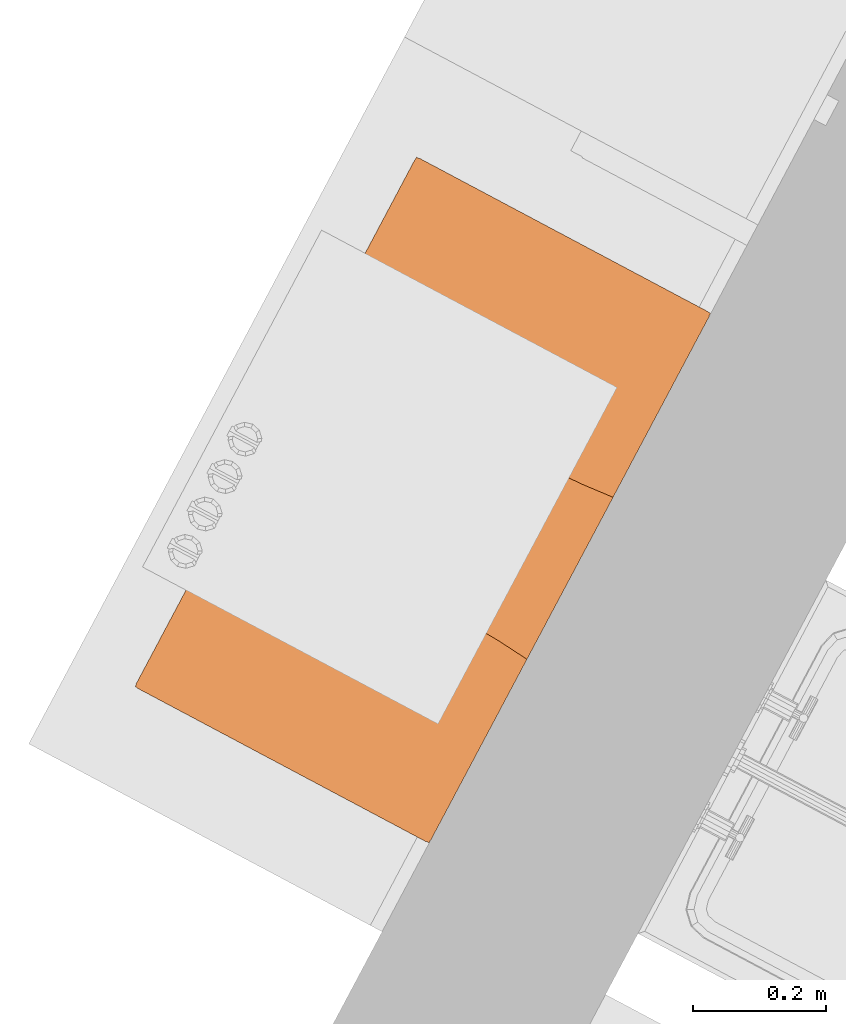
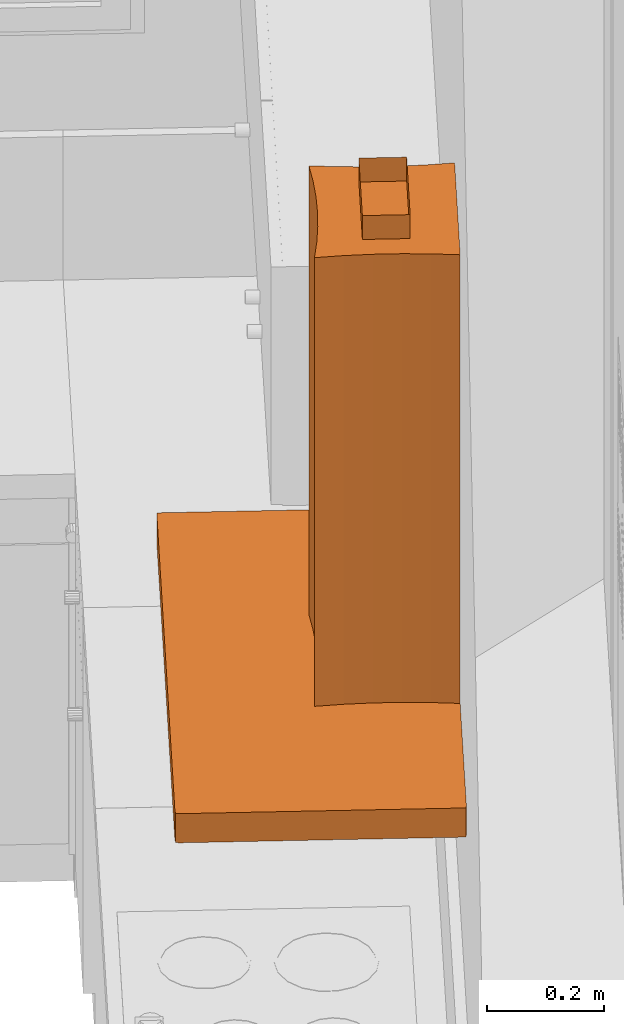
# One storey, part 24 of 27: 1 proxy.
"""IFC2X3 building model written with IfcOpenShell, lengths in metres."""

from ifc_helpers import new_model, entity, si_unit, converted_unit, derived_unit, money_unit, direction, frame, origin_with_axes, place, context, subcontext, project, spatial, open_shell, faceted_brep, surface_model, type_object, element, save


model = new_model("IFC2X3")

# Units and contexts
model_context = context("Model", 3, precision=1e-05, world=origin_with_axes(), true_north=direction((0.0, 1.0)))
body_context = subcontext(model_context, "Body", "Model", "MODEL_VIEW")
ifc_project = project(units=[si_unit("LENGTHUNIT", "METRE"), si_unit("AREAUNIT", "SQUARE_METRE"), si_unit("VOLUMEUNIT", "CUBIC_METRE"), converted_unit("PLANEANGLEUNIT", "DEGREE", entity("IfcPlaneAngleMeasure", 0.0174532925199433), si_unit("PLANEANGLEUNIT", "RADIAN"), dimensions=[0, 0, 0, 0, 0, 0, 0]), money_unit("CHF"), converted_unit("TIMEUNIT", "Year", entity("IfcTimeMeasure", 31557600.0), si_unit("TIMEUNIT", "SECOND"), dimensions=[0, 0, 1, 0, 0, 0, 0]), si_unit("MASSUNIT", "GRAM", prefix="KILO"), si_unit("THERMODYNAMICTEMPERATUREUNIT", "DEGREE_CELSIUS"), si_unit("LUMINOUSINTENSITYUNIT", "LUMEN"), si_unit("ENERGYUNIT", "JOULE", prefix="MEGA"), derived_unit("THERMALCONDUCTANCEUNIT", [(si_unit("POWERUNIT", "WATT"), 1), (si_unit("LENGTHUNIT", "METRE"), -1), (si_unit("THERMODYNAMICTEMPERATUREUNIT", "KELVIN"), -1)]), derived_unit("SPECIFICHEATCAPACITYUNIT", [(si_unit("ENERGYUNIT", "JOULE"), 1), (si_unit("MASSUNIT", "GRAM", prefix="KILO"), -1), (si_unit("THERMODYNAMICTEMPERATUREUNIT", "KELVIN"), -1)]), derived_unit("MASSDENSITYUNIT", [(si_unit("MASSUNIT", "GRAM", prefix="KILO"), 1), (si_unit("VOLUMEUNIT", "CUBIC_METRE"), -1)])], contexts=[model_context])

# Site, building, storey
site_placement = place(None, frame((0.0, 0.0, 0.0), z_axis=(0.0, 0.0, 1.0), x_axis=(-0.4694715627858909, -0.8829475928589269, 0.0)))
site = spatial("IfcSite", under=ifc_project, at=site_placement, Name="Site", CompositionType="ELEMENT")
building_placement = place(site_placement, origin_with_axes())
building = spatial("IfcBuilding", under=site, at=building_placement, Name="Bâtiment", CompositionType="ELEMENT")
storey_placement = place(building_placement, origin_with_axes())
storey = spatial("IfcBuildingStorey", under=building, at=storey_placement, Name="RDC", CompositionType="ELEMENT", Elevation=0.0)

# Proxy
building_element_proxy_type = type_object("IfcBuildingElementProxyType", Name="Hotte 27", PredefinedType="NOTDEFINED")
proxy_placement = place(storey_placement, frame((135.7795710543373, -829.53459910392, 1.56), z_axis=(0.0, 0.0, 1.0), x_axis=(1.0, 0.0, 0.0)))
element("IfcBuildingElementProxy", 1, at=proxy_placement, inside=storey, type_object=building_element_proxy_type, Name="Obj.-483", context=body_context, shape_type="SurfaceModel", body=[
    surface_model("IfcShellBasedSurfaceModel", [(0.536, 0.3340000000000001, 1.0), (0.536, 0.416, 1.0), (0.536, 0.416, 1.05), (0.536, 0.3340000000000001, 1.05), (0.364, 0.416, 1.0), (0.364, 0.416, 1.05), (0.364, 0.3340000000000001, 1.0), (0.364, 0.3340000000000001, 1.05)], [open_shell([[[0, 1, 2, 3]], [[1, 4, 5, 2]], [[6, 0, 3, 7]], [[4, 6, 7, 5]]])]),
    faceted_brep([(0.005, 0.0, 0.06), (0.895, 0.0, 0.06), (0.895, 0.0, 0.061), (0.005, 0.0, 0.061), (0.005, 0.0005, 0.06), (0.0005, 0.0005, 0.06), (0.0005, 0.005, 0.06), (0.0, 0.005, 0.06), (0.0, 0.495, 0.06), (0.0005, 0.495, 0.06), (0.0005, 0.4995, 0.06), (0.005, 0.4995, 0.06), (0.005, 0.5, 0.06), (0.895, 0.5, 0.06), (0.895, 0.4995, 0.06), (0.8995, 0.4995, 0.06), (0.8995, 0.495, 0.06), (0.9, 0.495, 0.06), (0.9, 0.005, 0.06), (0.8995, 0.005, 0.06), (0.8995, 0.0005, 0.06), (0.895, 0.0005, 0.06), (0.895, 0.0005, 0.061), (0.8995, 0.0005, 0.061), (0.8995, 0.005, 0.061), (0.9, 0.005, 0.061), (0.9, 0.495, 0.061), (0.8995, 0.495, 0.061), (0.8995, 0.4995, 0.061), (0.895, 0.4995, 0.061), (0.895, 0.5, 0.061), (0.005, 0.5, 0.061), (0.005, 0.4995, 0.061), (0.0005, 0.4995, 0.061), (0.0005, 0.495, 0.061), (0.0, 0.495, 0.061), (0.0, 0.005, 0.061), (0.0005, 0.005, 0.061), (0.0005, 0.0005, 0.061), (0.005, 0.0005, 0.061)], [[[0, 1, 2, 3]], [[0, 4, 5, 6, 7, 8, 9, 10, 11, 12, 13, 14, 15, 16, 17, 18, 19, 20, 21, 1]], [[1, 21, 22, 2]], [[3, 2, 22, 23, 24, 25, 26, 27, 28, 29, 30, 31, 32, 33, 34, 35, 36, 37, 38, 39]], [[4, 0, 3, 39]], [[5, 4, 39, 38]], [[6, 5, 38, 37]], [[7, 6, 37, 36]], [[8, 7, 36, 35]], [[9, 8, 35, 34]], [[10, 9, 34, 33]], [[11, 10, 33, 32]], [[12, 11, 32, 31]], [[13, 12, 31, 30]], [[14, 13, 30, 29]], [[15, 14, 29, 28]], [[16, 15, 28, 27]], [[17, 16, 27, 26]], [[18, 17, 26, 25]], [[19, 18, 25, 24]], [[20, 19, 24, 23]], [[21, 20, 23, 22]]]),
    faceted_brep([(0.005, 0.0, 0.0), (0.895, 0.0, 0.0), (0.895, 0.0, 0.06), (0.005, 0.0, 0.06), (0.005, 0.0005, 0.0), (0.0005, 0.0005, 0.0), (0.0005, 0.005, 0.0), (0.0, 0.005, 0.0), (0.0, 0.495, 0.0), (0.0005, 0.495, 0.0), (0.0005, 0.4995, 0.0), (0.005, 0.4995, 0.0), (0.005, 0.5, 0.0), (0.895, 0.5, 0.0), (0.895, 0.4995, 0.0), (0.8995, 0.4995, 0.0), (0.8995, 0.495, 0.0), (0.9, 0.495, 0.0), (0.9, 0.005, 0.0), (0.8995, 0.005, 0.0), (0.8995, 0.0005, 0.0), (0.895, 0.0005, 0.0), (0.006288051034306, 0.0007236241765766, 0.0), (0.8937119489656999, 0.0007236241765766, 0.0), (0.8937119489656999, 0.001222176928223, 0.0), (0.8981989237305, 0.001222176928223, 0.0), (0.8981989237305, 0.005709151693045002, 0.0), (0.8986974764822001, 0.005709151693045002, 0.0), (0.8986974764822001, 0.494290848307, 0.0), (0.8981989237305, 0.494290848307, 0.0), (0.8981989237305, 0.4987778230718, 0.0), (0.8937119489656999, 0.4987778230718, 0.0), (0.8937119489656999, 0.4992763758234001, 0.0), (0.006288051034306, 0.4992763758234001, 0.0), (0.006288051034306, 0.4987778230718, 0.0), (0.001801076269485, 0.4987778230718, 0.0), (0.001801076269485, 0.494290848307, 0.0), (0.001302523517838, 0.494290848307, 0.0), (0.001302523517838, 0.005709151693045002, 0.0), (0.001801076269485, 0.005709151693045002, 0.0), (0.001801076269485, 0.001222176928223, 0.0), (0.006288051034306, 0.001222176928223, 0.0), (0.895, 0.0005, 0.06), (0.8995, 0.0005, 0.06), (0.8995, 0.005, 0.06), (0.9, 0.005, 0.06), (0.9, 0.495, 0.06), (0.8995, 0.495, 0.06), (0.8995, 0.4995, 0.06), (0.895, 0.4995, 0.06), (0.895, 0.5, 0.06), (0.005, 0.5, 0.06), (0.005, 0.4995, 0.06), (0.0005, 0.4995, 0.06), (0.0005, 0.495, 0.06), (0.0, 0.495, 0.06), (0.0, 0.005, 0.06), (0.0005, 0.005, 0.06), (0.0005, 0.0005, 0.06), (0.005, 0.0005, 0.06), (0.006288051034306, 0.0007236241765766, 0.06), (0.006288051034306, 0.001222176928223, 0.06), (0.001801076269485, 0.001222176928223, 0.06), (0.001801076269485, 0.005709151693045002, 0.06), (0.001302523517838, 0.005709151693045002, 0.06), (0.001302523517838, 0.494290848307, 0.06), (0.001801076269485, 0.494290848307, 0.06), (0.001801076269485, 0.4987778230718, 0.06), (0.006288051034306, 0.4987778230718, 0.06), (0.006288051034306, 0.4992763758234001, 0.06), (0.8937119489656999, 0.4992763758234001, 0.06), (0.8937119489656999, 0.4987778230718, 0.06), (0.8981989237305, 0.4987778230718, 0.06), (0.8981989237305, 0.494290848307, 0.06), (0.8986974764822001, 0.494290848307, 0.06), (0.8986974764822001, 0.005709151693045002, 0.06), (0.8981989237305, 0.005709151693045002, 0.06), (0.8981989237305, 0.001222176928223, 0.06), (0.8937119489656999, 0.001222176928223, 0.06), (0.8937119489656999, 0.0007236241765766, 0.06)], [[[0, 1, 2, 3]], [[0, 4, 5, 6, 7, 8, 9, 10, 11, 12, 13, 14, 15, 16, 17, 18, 19, 20, 21, 1], [22, 23, 24, 25, 26, 27, 28, 29, 30, 31, 32, 33, 34, 35, 36, 37, 38, 39, 40, 41]], [[1, 21, 42, 2]], [[3, 2, 42, 43, 44, 45, 46, 47, 48, 49, 50, 51, 52, 53, 54, 55, 56, 57, 58, 59], [60, 61, 62, 63, 64, 65, 66, 67, 68, 69, 70, 71, 72, 73, 74, 75, 76, 77, 78, 79]], [[4, 0, 3, 59]], [[5, 4, 59, 58]], [[6, 5, 58, 57]], [[7, 6, 57, 56]], [[8, 7, 56, 55]], [[9, 8, 55, 54]], [[10, 9, 54, 53]], [[11, 10, 53, 52]], [[12, 11, 52, 51]], [[13, 12, 51, 50]], [[14, 13, 50, 49]], [[15, 14, 49, 48]], [[16, 15, 48, 47]], [[17, 16, 47, 46]], [[18, 17, 46, 45]], [[19, 18, 45, 44]], [[20, 19, 44, 43]], [[21, 20, 43, 42]], [[23, 22, 60, 79]], [[24, 23, 79, 78]], [[25, 24, 78, 77]], [[26, 25, 77, 76]], [[27, 26, 76, 75]], [[28, 27, 75, 74]], [[29, 28, 74, 73]], [[30, 29, 73, 72]], [[31, 30, 72, 71]], [[32, 31, 71, 70]], [[33, 32, 70, 69]], [[34, 33, 69, 68]], [[35, 34, 68, 67]], [[36, 35, 67, 66]], [[37, 36, 66, 65]], [[38, 37, 65, 64]], [[39, 38, 64, 63]], [[40, 39, 63, 62]], [[41, 40, 62, 61]], [[22, 41, 61, 60]]]),
    surface_model("IfcShellBasedSurfaceModel", [(0.3125100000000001, 0.25001, 0.061), (0.3125000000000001, 0.25, 0.061), (0.3125000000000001, 0.25, 1.0), (0.3125100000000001, 0.25001, 1.0), (0.3169783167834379, 0.299899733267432, 0.061), (0.3192197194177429, 0.349949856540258, 0.061), (0.3192197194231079, 0.4000501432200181, 0.061), (0.3169783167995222, 0.4501002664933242, 0.061), (0.3125000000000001, 0.5, 0.061), (0.3125100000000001, 0.5001, 0.061), (0.5875000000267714, 0.5000000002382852, 0.061), (0.5830216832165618, 0.4501002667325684, 0.061), (0.5807802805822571, 0.4000501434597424, 0.061), (0.580780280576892, 0.3499498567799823, 0.061), (0.5830216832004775, 0.2998997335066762, 0.061), (0.5874999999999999, 0.25, 0.061), (0.5418459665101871, 0.255551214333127, 0.061), (0.4959768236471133, 0.2588871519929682, 0.061), (0.4499999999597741, 0.2599999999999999, 0.061), (0.4040231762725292, 0.258887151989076, 0.061), (0.3581540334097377, 0.2555512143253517, 0.061), (0.3581540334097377, 0.2555512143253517, 1.0), (0.4040231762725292, 0.258887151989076, 1.0), (0.4499999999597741, 0.2599999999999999, 1.0), (0.4959768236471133, 0.2588871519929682, 1.0), (0.5418459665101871, 0.255551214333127, 1.0), (0.5874999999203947, 0.2500000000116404, 1.0), (0.5830216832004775, 0.2998997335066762, 1.0), (0.580780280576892, 0.3499498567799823, 1.0), (0.5807802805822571, 0.4000501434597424, 1.0), (0.5830216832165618, 0.4501002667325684, 1.0), (0.5875000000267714, 0.5000000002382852, 1.0), (0.3125100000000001, 0.5001, 1.0), (0.3125000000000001, 0.5, 1.0), (0.3169783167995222, 0.4501002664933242, 1.0), (0.3192197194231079, 0.4000501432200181, 1.0), (0.3192197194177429, 0.349949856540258, 1.0), (0.3169783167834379, 0.299899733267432, 1.0), (0.3124999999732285, 0.2499999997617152, 1.0), (0.3124999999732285, 0.2499999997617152, 0.061), (0.5874999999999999, 0.25, 1.0), (0.5875099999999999, 0.25001, 0.061), (0.5875099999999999, 0.25001, 1.0), (0.5874999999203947, 0.2500000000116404, 0.061)], [open_shell([[[0, 1, 2, 3]], [[4, 5, 6, 7, 8, 9, 10, 11, 12, 13, 14, 15, 16, 17, 18, 19, 20, 1]], [[1, 20, 21, 2]], [[21, 22, 23, 24, 25, 26, 27, 28, 29, 30, 31, 32, 33, 34, 35, 36, 37, 38]], [[39, 0, 3, 38]], [[4, 39, 38, 37]], [[5, 4, 37, 36]], [[6, 5, 36, 35]], [[7, 6, 35, 34]], [[8, 7, 34, 33]], [[9, 8, 33, 32]], [[10, 9, 32, 31]], [[11, 10, 31, 30]], [[12, 11, 30, 29]], [[13, 12, 29, 28]], [[14, 13, 28, 27]], [[15, 14, 27, 40]], [[41, 15, 40, 42]], [[43, 41, 42, 26]], [[16, 43, 26, 25]], [[17, 16, 25, 24]], [[18, 17, 24, 23]], [[19, 18, 23, 22]], [[20, 19, 22, 21]]])]),
    faceted_brep([(0.7596, 0.06191446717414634, 0.0), (0.7623, 0.05627631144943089, -0.004000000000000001), (0.7613061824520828, 0.05627631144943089, -0.004000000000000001), (0.7594592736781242, 0.06191446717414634, 0.0), (0.7596, 0.02918382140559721, 0.0), (0.7623, 0.03409191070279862, -0.003999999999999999), (0.7580578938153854, 0.03580746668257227, -0.004000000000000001), (0.7543640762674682, 0.04291622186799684, -0.004000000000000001), (0.755646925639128, 0.051, -0.004000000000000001), (0.7509703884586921, 0.054, 0.0), (0.7490461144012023, 0.04187433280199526, 0.0), (0.754586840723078, 0.03121120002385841, 0.0)], [[[0, 1, 2, 3]], [[1, 0, 4, 5]], [[1, 5, 6, 7, 8, 2]], [[2, 8, 9, 3]], [[4, 0, 3, 9, 10, 11]], [[5, 4, 11, 6]], [[7, 6, 11, 10]], [[8, 7, 10, 9]]]),
    faceted_brep([(0.7677, 0.05627631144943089, -0.004000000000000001), (0.7704, 0.06191446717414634, 0.0), (0.7705407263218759, 0.06191446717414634, 0.0), (0.7686938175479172, 0.05627631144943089, -0.004000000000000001), (0.7704, 0.02918382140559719, 0.0), (0.7677, 0.03409191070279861, -0.003999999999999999), (0.775413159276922, 0.0312112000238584, 0.0), (0.7809538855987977, 0.04187433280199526, 0.0), (0.7790296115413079, 0.05399999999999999, 0.0), (0.774353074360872, 0.051, -0.004000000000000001), (0.7756359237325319, 0.04291622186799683, -0.004000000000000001), (0.7719421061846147, 0.03580746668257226, -0.004000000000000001)], [[[0, 1, 2, 3]], [[4, 1, 0, 5]], [[1, 4, 6, 7, 8, 2]], [[9, 3, 2, 8]], [[5, 0, 3, 9, 10, 11]], [[4, 5, 11, 6]], [[11, 10, 7, 6]], [[10, 9, 8, 7]]]),
    faceted_brep([(0.7704, 0.02625, 0.0), (0.7704, 0.06045, 0.0), (0.7596, 0.06045, 0.0), (0.7596, 0.02625, 0.0), (0.7677, 0.02625, -0.003999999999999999), (0.7677, 0.06045, -0.004000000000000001), (0.765, 0.06045, -0.006000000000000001), (0.7623, 0.06045, -0.004000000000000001), (0.7623, 0.02625, -0.003999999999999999), (0.765, 0.02625, -0.005999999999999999)], [[[0, 1, 2, 3]], [[4, 5, 1, 0]], [[1, 5, 6, 7, 2]], [[3, 2, 7, 8]], [[0, 3, 8, 9, 4]], [[9, 6, 5, 4]], [[8, 7, 6, 9]]]),
    faceted_brep([(0.7987500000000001, 0.03525, 0.0), (0.7987500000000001, 0.03525, -0.0025), (0.7993431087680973, 0.03365900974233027, -0.0025), (0.7993431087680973, 0.03365900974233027, 0.0), (0.7987500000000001, 0.05475, 0.0), (0.7987500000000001, 0.05475, -0.0025), (0.7993431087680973, 0.05634099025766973, -0.0025), (0.8007750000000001, 0.057, -0.0025), (0.8102250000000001, 0.057, -0.0025), (0.8116568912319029, 0.05634099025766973, -0.0025), (0.8122500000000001, 0.05475, -0.0025), (0.8122500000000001, 0.03525, -0.0025), (0.8116568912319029, 0.03365900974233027, -0.0025), (0.8102250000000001, 0.033, -0.0025), (0.8007750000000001, 0.033, -0.0025), (0.8007750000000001, 0.033, 0.0), (0.8102250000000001, 0.033, 0.0), (0.8116568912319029, 0.03365900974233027, 0.0), (0.8122500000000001, 0.03525, 0.0), (0.8122500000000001, 0.05475, 0.0), (0.8116568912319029, 0.05634099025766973, 0.0), (0.8102250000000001, 0.057, 0.0), (0.8007750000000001, 0.057, 0.0), (0.7993431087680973, 0.05634099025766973, 0.0)], [[[0, 1, 2, 3]], [[4, 5, 1, 0]], [[1, 5, 6, 7, 8, 9, 10, 11, 12, 13, 14, 2]], [[3, 2, 14, 15]], [[0, 3, 15, 16, 17, 18, 19, 20, 21, 22, 23, 4]], [[23, 6, 5, 4]], [[22, 7, 6, 23]], [[21, 8, 7, 22]], [[20, 9, 8, 21]], [[19, 10, 9, 20]], [[18, 11, 10, 19]], [[17, 12, 11, 18]], [[16, 13, 12, 17]], [[15, 14, 13, 16]]]),
    faceted_brep([(0.8102250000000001, 0.05430111, -0.004449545), (0.8007750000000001, 0.05430111, -0.004449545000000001), (0.8007750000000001, 0.05474998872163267, -0.002499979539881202), (0.8102250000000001, 0.05474998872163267, -0.002499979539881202), (0.8102250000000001, 0.05174346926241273, -0.007194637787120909), (0.8007750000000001, 0.05174346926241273, -0.007194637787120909), (0.8007750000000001, 0.05119566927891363, -0.007369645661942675), (0.8007750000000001, 0.05059877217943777, -0.007294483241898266), (0.8007750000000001, 0.05018450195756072, -0.006998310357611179), (0.8007750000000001, 0.04438471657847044, -0.003733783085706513), (0.8007750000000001, 0.03683103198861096, -0.004231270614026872), (0.8007750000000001, 0.0362509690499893, -0.004292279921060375), (0.8007750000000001, 0.03572355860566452, -0.004120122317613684), (0.8007750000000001, 0.03544009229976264, -0.003777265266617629), (0.8007750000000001, 0.03525, -0.0025), (0.8102250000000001, 0.03525, -0.0025), (0.8102250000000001, 0.03544009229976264, -0.003777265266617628), (0.8102250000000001, 0.03572355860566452, -0.004120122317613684), (0.8102250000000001, 0.0362509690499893, -0.004292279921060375), (0.8102250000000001, 0.03683103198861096, -0.004231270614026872), (0.8102250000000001, 0.04438471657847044, -0.003733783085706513), (0.8102250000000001, 0.05018450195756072, -0.006998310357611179), (0.8102250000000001, 0.05059877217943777, -0.007294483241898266), (0.8102250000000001, 0.05119566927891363, -0.007369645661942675)], [[[0, 1, 2, 3]], [[4, 5, 1, 0]], [[1, 5, 6, 7, 8, 9, 10, 11, 12, 13, 14, 2]], [[3, 2, 14, 15]], [[0, 3, 15, 16, 17, 18, 19, 20, 21, 22, 23, 4]], [[23, 6, 5, 4]], [[22, 7, 6, 23]], [[21, 8, 7, 22]], [[20, 9, 8, 21]], [[19, 10, 9, 20]], [[18, 11, 10, 19]], [[17, 12, 11, 18]], [[16, 13, 12, 17]], [[15, 14, 13, 16]]]),
    faceted_brep([(0.82305, 0.03525, 0.0), (0.82305, 0.03525, -0.0025), (0.8236431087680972, 0.03365900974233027, -0.0025), (0.8236431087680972, 0.03365900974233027, 0.0), (0.82305, 0.05475, 0.0), (0.82305, 0.05475, -0.0025), (0.8236431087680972, 0.05634099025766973, -0.0025), (0.825075, 0.057, -0.0025), (0.834525, 0.057, -0.0025), (0.8359568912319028, 0.05634099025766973, -0.0025), (0.83655, 0.05475, -0.0025), (0.83655, 0.03525, -0.0025), (0.8359568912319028, 0.03365900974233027, -0.0025), (0.834525, 0.033, -0.0025), (0.825075, 0.033, -0.0025), (0.825075, 0.033, 0.0), (0.834525, 0.033, 0.0), (0.8359568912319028, 0.03365900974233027, 0.0), (0.83655, 0.03525, 0.0), (0.83655, 0.05475, 0.0), (0.8359568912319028, 0.05634099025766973, 0.0), (0.834525, 0.057, 0.0), (0.825075, 0.057, 0.0), (0.8236431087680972, 0.05634099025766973, 0.0)], [[[0, 1, 2, 3]], [[4, 5, 1, 0]], [[1, 5, 6, 7, 8, 9, 10, 11, 12, 13, 14, 2]], [[3, 2, 14, 15]], [[0, 3, 15, 16, 17, 18, 19, 20, 21, 22, 23, 4]], [[23, 6, 5, 4]], [[22, 7, 6, 23]], [[21, 8, 7, 22]], [[20, 9, 8, 21]], [[19, 10, 9, 20]], [[18, 11, 10, 19]], [[17, 12, 11, 18]], [[16, 13, 12, 17]], [[15, 14, 13, 16]]]),
    faceted_brep([(0.834525, 0.05430111, -0.004449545), (0.825075, 0.05430111, -0.004449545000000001), (0.825075, 0.05474998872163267, -0.002499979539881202), (0.834525, 0.05474998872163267, -0.002499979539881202), (0.834525, 0.05174346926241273, -0.007194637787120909), (0.825075, 0.05174346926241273, -0.007194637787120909), (0.825075, 0.05119566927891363, -0.007369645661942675), (0.825075, 0.05059877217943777, -0.007294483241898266), (0.825075, 0.05018450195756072, -0.006998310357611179), (0.825075, 0.04438471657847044, -0.003733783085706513), (0.825075, 0.03683103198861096, -0.004231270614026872), (0.825075, 0.0362509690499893, -0.004292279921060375), (0.825075, 0.03572355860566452, -0.004120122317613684), (0.825075, 0.03544009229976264, -0.003777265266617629), (0.825075, 0.03525, -0.0025), (0.834525, 0.03525, -0.0025), (0.834525, 0.03544009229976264, -0.003777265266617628), (0.834525, 0.03572355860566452, -0.004120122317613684), (0.834525, 0.0362509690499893, -0.004292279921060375), (0.834525, 0.03683103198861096, -0.004231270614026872), (0.834525, 0.04438471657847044, -0.003733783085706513), (0.834525, 0.05018450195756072, -0.006998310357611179), (0.834525, 0.05059877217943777, -0.007294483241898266), (0.834525, 0.05119566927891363, -0.007369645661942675)], [[[0, 1, 2, 3]], [[4, 5, 1, 0]], [[1, 5, 6, 7, 8, 9, 10, 11, 12, 13, 14, 2]], [[3, 2, 14, 15]], [[0, 3, 15, 16, 17, 18, 19, 20, 21, 22, 23, 4]], [[23, 6, 5, 4]], [[22, 7, 6, 23]], [[21, 8, 7, 22]], [[20, 9, 8, 21]], [[19, 10, 9, 20]], [[18, 11, 10, 19]], [[17, 12, 11, 18]], [[16, 13, 12, 17]], [[15, 14, 13, 16]]]),
    faceted_brep([(0.84735, 0.03525, 0.0), (0.84735, 0.03525, -0.0025), (0.8479431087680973, 0.03365900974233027, -0.0025), (0.8479431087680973, 0.03365900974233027, 0.0), (0.84735, 0.05475, 0.0), (0.84735, 0.05475, -0.0025), (0.8479431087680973, 0.05634099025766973, -0.0025), (0.8493750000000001, 0.057, -0.0025), (0.8588250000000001, 0.057, -0.0025), (0.8602568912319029, 0.05634099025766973, -0.0025), (0.8608500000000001, 0.05475, -0.0025), (0.8608500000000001, 0.03525, -0.0025), (0.8602568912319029, 0.03365900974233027, -0.0025), (0.8588250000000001, 0.033, -0.0025), (0.8493750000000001, 0.033, -0.0025), (0.8493750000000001, 0.033, 0.0), (0.8588250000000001, 0.033, 0.0), (0.8602568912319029, 0.03365900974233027, 0.0), (0.8608500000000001, 0.03525, 0.0), (0.8608500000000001, 0.05475, 0.0), (0.8602568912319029, 0.05634099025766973, 0.0), (0.8588250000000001, 0.057, 0.0), (0.8493750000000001, 0.057, 0.0), (0.8479431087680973, 0.05634099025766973, 0.0)], [[[0, 1, 2, 3]], [[4, 5, 1, 0]], [[1, 5, 6, 7, 8, 9, 10, 11, 12, 13, 14, 2]], [[3, 2, 14, 15]], [[0, 3, 15, 16, 17, 18, 19, 20, 21, 22, 23, 4]], [[23, 6, 5, 4]], [[22, 7, 6, 23]], [[21, 8, 7, 22]], [[20, 9, 8, 21]], [[19, 10, 9, 20]], [[18, 11, 10, 19]], [[17, 12, 11, 18]], [[16, 13, 12, 17]], [[15, 14, 13, 16]]]),
    faceted_brep([(0.8588250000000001, 0.05430111, -0.004449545), (0.8493750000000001, 0.05430111, -0.004449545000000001), (0.8493750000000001, 0.05474998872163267, -0.002499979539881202), (0.8588250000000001, 0.05474998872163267, -0.002499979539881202), (0.8588250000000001, 0.05174346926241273, -0.007194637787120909), (0.8493750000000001, 0.05174346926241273, -0.007194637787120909), (0.8493750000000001, 0.05119566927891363, -0.007369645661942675), (0.8493750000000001, 0.05059877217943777, -0.007294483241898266), (0.8493750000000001, 0.05018450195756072, -0.006998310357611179), (0.8493750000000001, 0.04438471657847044, -0.003733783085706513), (0.8493750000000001, 0.03683103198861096, -0.004231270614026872), (0.8493750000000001, 0.0362509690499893, -0.004292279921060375), (0.8493750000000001, 0.03572355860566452, -0.004120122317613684), (0.8493750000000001, 0.03544009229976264, -0.003777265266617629), (0.8493750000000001, 0.03525, -0.0025), (0.8588250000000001, 0.03525, -0.0025), (0.8588250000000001, 0.03544009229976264, -0.003777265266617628), (0.8588250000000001, 0.03572355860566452, -0.004120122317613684), (0.8588250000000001, 0.0362509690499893, -0.004292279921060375), (0.8588250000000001, 0.03683103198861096, -0.004231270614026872), (0.8588250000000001, 0.04438471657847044, -0.003733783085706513), (0.8588250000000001, 0.05018450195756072, -0.006998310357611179), (0.8588250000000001, 0.05059877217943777, -0.007294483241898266), (0.8588250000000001, 0.05119566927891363, -0.007369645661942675)], [[[0, 1, 2, 3]], [[4, 5, 1, 0]], [[1, 5, 6, 7, 8, 9, 10, 11, 12, 13, 14, 2]], [[3, 2, 14, 15]], [[0, 3, 15, 16, 17, 18, 19, 20, 21, 22, 23, 4]], [[23, 6, 5, 4]], [[22, 7, 6, 23]], [[21, 8, 7, 22]], [[20, 9, 8, 21]], [[19, 10, 9, 20]], [[18, 11, 10, 19]], [[17, 12, 11, 18]], [[16, 13, 12, 17]], [[15, 14, 13, 16]]]),
    faceted_brep([(0.875, 0.08, -0.001), (0.875, 0.475, -0.001), (0.875, 0.475, 0.0), (0.875, 0.08, 0.0), (0.02500000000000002, 0.08, -0.001), (0.02500000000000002, 0.475, -0.001), (0.02500000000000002, 0.475, 0.0), (0.02500000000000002, 0.08, 0.0)], [[[0, 1, 2, 3]], [[0, 4, 5, 1]], [[1, 5, 6, 2]], [[3, 2, 6, 7]], [[4, 0, 3, 7]], [[5, 4, 7, 6]]]),
    faceted_brep([(0.898, 0.002, 0.0), (0.898, 0.498, 0.0), (0.898, 0.498, 0.01), (0.898, 0.002, 0.01), (0.002000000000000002, 0.002, 0.0), (0.002000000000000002, 0.498, 0.0), (0.875, 0.08, 0.0), (0.875, 0.475, 0.0), (0.02500000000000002, 0.475, 0.0), (0.02500000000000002, 0.08, 0.0), (0.002000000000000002, 0.498, 0.01), (0.002000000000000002, 0.002, 0.01), (0.875, 0.08, 0.01), (0.02500000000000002, 0.08, 0.01), (0.02500000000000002, 0.475, 0.01), (0.875, 0.475, 0.01)], [[[0, 1, 2, 3]], [[0, 4, 5, 1], [6, 7, 8, 9]], [[1, 5, 10, 2]], [[3, 2, 10, 11], [12, 13, 14, 15]], [[4, 0, 3, 11]], [[5, 4, 11, 10]], [[7, 6, 12, 15]], [[8, 7, 15, 14]], [[9, 8, 14, 13]], [[6, 9, 13, 12]]]),
])

save(model, "model.ifc")
